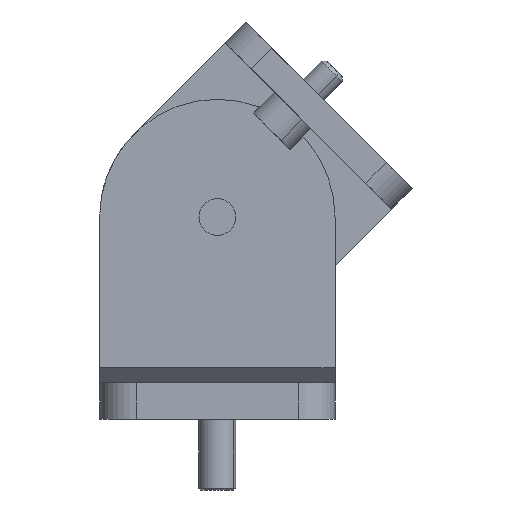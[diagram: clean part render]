
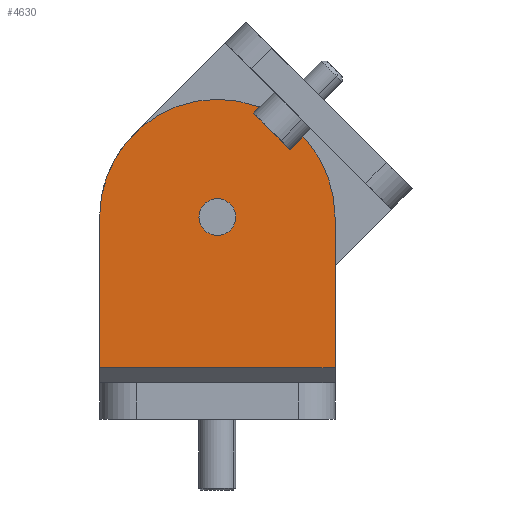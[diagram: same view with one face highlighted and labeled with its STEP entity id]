
A CAD part, left-side view. The second image highlights one B-rep face of the part: STEP entity #4630.
In plain terms, the highlighted planar face has unit normal (-1, 0, 0).
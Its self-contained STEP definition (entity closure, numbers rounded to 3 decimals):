
#313 = CARTESIAN_POINT ( 'NONE',  ( -15., 16., 5. ) ) ;
#330 = LINE ( 'NONE', #403, #6269 ) ;
#363 = CARTESIAN_POINT ( 'NONE',  ( -15., 0., 25. ) ) ;
#403 = CARTESIAN_POINT ( 'NONE',  ( -15., -16., 5. ) ) ;
#404 = AXIS2_PLACEMENT_3D ( 'NONE', #7195, #4175, #1766 ) ;
#601 = DIRECTION ( 'NONE',  ( -1., 0., 0. ) ) ;
#822 = AXIS2_PLACEMENT_3D ( 'NONE', #2628, #6184, #6783 ) ;
#829 = CIRCLE ( 'NONE', #5247, 16. ) ;
#833 = EDGE_CURVE ( 'NONE', #3890, #2030, #1275, .T. ) ;
#903 = CIRCLE ( 'NONE', #404, 2.5 ) ;
#1194 = DIRECTION ( 'NONE',  ( 0., 0., -1. ) ) ;
#1202 = FACE_OUTER_BOUND ( 'NONE', #2056, .T. ) ;
#1268 = DIRECTION ( 'NONE',  ( 0., 0., -1. ) ) ;
#1275 = CIRCLE ( 'NONE', #2916, 16. ) ;
#1420 = EDGE_CURVE ( 'NONE', #6726, #2016, #903, .T. ) ;
#1470 = CARTESIAN_POINT ( 'NONE',  ( -15., 16., 2. ) ) ;
#1536 = CARTESIAN_POINT ( 'NONE',  ( -15., 0., 38.5 ) ) ;
#1579 = AXIS2_PLACEMENT_3D ( 'NONE', #7730, #6692, #1194 ) ;
#1766 = DIRECTION ( 'NONE',  ( 0., 0., -1. ) ) ;
#2016 = VERTEX_POINT ( 'NONE', #4405 ) ;
#2030 = VERTEX_POINT ( 'NONE', #2631 ) ;
#2056 = EDGE_LOOP ( 'NONE', ( #2700, #2445, #2306, #3036, #7044 ) ) ;
#2135 = EDGE_CURVE ( 'NONE', #3395, #6958, #5272, .T. ) ;
#2224 = EDGE_LOOP ( 'NONE', ( #7051, #2907 ) ) ;
#2306 = ORIENTED_EDGE ( 'NONE', *, *, #6716, .F. ) ;
#2445 = ORIENTED_EDGE ( 'NONE', *, *, #2135, .T. ) ;
#2491 = VERTEX_POINT ( 'NONE', #4996 ) ;
#2628 = CARTESIAN_POINT ( 'NONE',  ( -15., 0., 5. ) ) ;
#2631 = CARTESIAN_POINT ( 'NONE',  ( -15., 16., 22.5 ) ) ;
#2700 = ORIENTED_EDGE ( 'NONE', *, *, #7363, .T. ) ;
#2724 = DIRECTION ( 'NONE',  ( 0., 0., -1. ) ) ;
#2907 = ORIENTED_EDGE ( 'NONE', *, *, #1420, .T. ) ;
#2916 = AXIS2_PLACEMENT_3D ( 'NONE', #7731, #3009, #2934 ) ;
#2934 = DIRECTION ( 'NONE',  ( 0., 0., -1. ) ) ;
#3009 = DIRECTION ( 'NONE',  ( -1., 0., 0. ) ) ;
#3036 = ORIENTED_EDGE ( 'NONE', *, *, #6346, .T. ) ;
#3203 = CARTESIAN_POINT ( 'NONE',  ( -15., -16., 2. ) ) ;
#3395 = VERTEX_POINT ( 'NONE', #1470 ) ;
#3890 = VERTEX_POINT ( 'NONE', #1536 ) ;
#4175 = DIRECTION ( 'NONE',  ( 1., 0., 0. ) ) ;
#4405 = CARTESIAN_POINT ( 'NONE',  ( -15., 0., 20. ) ) ;
#4630 = ADVANCED_FACE ( 'NONE', ( #7778, #1202 ), #6224, .F. ) ;
#4871 = CARTESIAN_POINT ( 'NONE',  ( -15., 0., 22.5 ) ) ;
#4996 = CARTESIAN_POINT ( 'NONE',  ( -15., -16., 22.5 ) ) ;
#5247 = AXIS2_PLACEMENT_3D ( 'NONE', #4871, #601, #1268 ) ;
#5272 = LINE ( 'NONE', #5910, #6857 ) ;
#5628 = CIRCLE ( 'NONE', #1579, 2.5 ) ;
#5725 = LINE ( 'NONE', #313, #7041 ) ;
#5781 = DIRECTION ( 'NONE',  ( 0., 0., -1. ) ) ;
#5910 = CARTESIAN_POINT ( 'NONE',  ( -15., 0., 2. ) ) ;
#6184 = DIRECTION ( 'NONE',  ( 1., 0., 0. ) ) ;
#6224 = PLANE ( 'NONE',  #822 ) ;
#6269 = VECTOR ( 'NONE', #5781, 1000. ) ;
#6346 = EDGE_CURVE ( 'NONE', #2491, #3890, #829, .T. ) ;
#6444 = EDGE_CURVE ( 'NONE', #2016, #6726, #5628, .T. ) ;
#6692 = DIRECTION ( 'NONE',  ( 1., 0., 0. ) ) ;
#6716 = EDGE_CURVE ( 'NONE', #2491, #6958, #330, .T. ) ;
#6726 = VERTEX_POINT ( 'NONE', #363 ) ;
#6783 = DIRECTION ( 'NONE',  ( 0., 0., -1. ) ) ;
#6857 = VECTOR ( 'NONE', #7692, 1000. ) ;
#6958 = VERTEX_POINT ( 'NONE', #3203 ) ;
#7041 = VECTOR ( 'NONE', #2724, 1000. ) ;
#7044 = ORIENTED_EDGE ( 'NONE', *, *, #833, .T. ) ;
#7051 = ORIENTED_EDGE ( 'NONE', *, *, #6444, .T. ) ;
#7195 = CARTESIAN_POINT ( 'NONE',  ( -15., 0., 22.5 ) ) ;
#7363 = EDGE_CURVE ( 'NONE', #2030, #3395, #5725, .T. ) ;
#7692 = DIRECTION ( 'NONE',  ( 0., -1., 0. ) ) ;
#7730 = CARTESIAN_POINT ( 'NONE',  ( -15., 0., 22.5 ) ) ;
#7731 = CARTESIAN_POINT ( 'NONE',  ( -15., 0., 22.5 ) ) ;
#7778 = FACE_BOUND ( 'NONE', #2224, .T. ) ;
